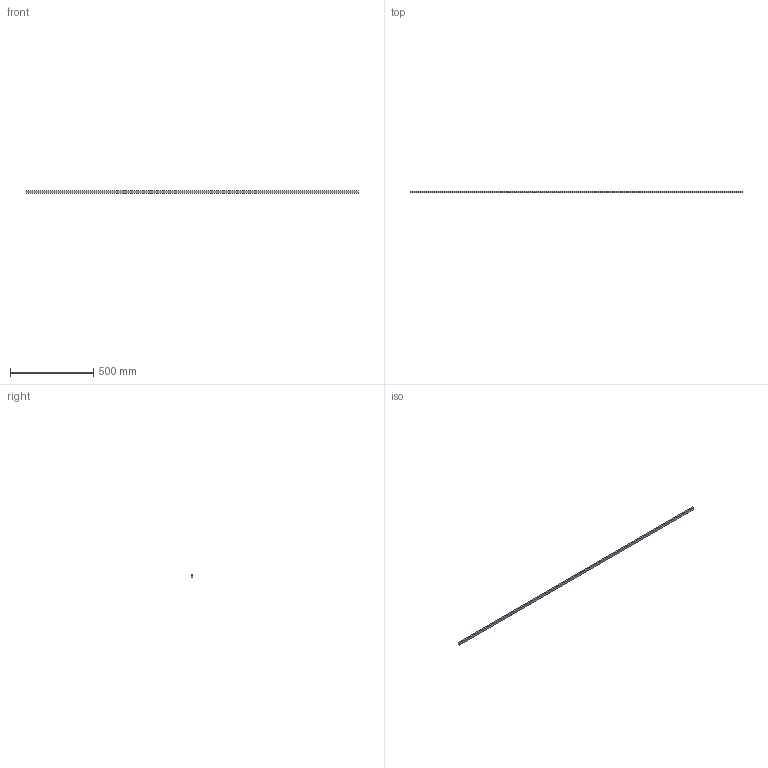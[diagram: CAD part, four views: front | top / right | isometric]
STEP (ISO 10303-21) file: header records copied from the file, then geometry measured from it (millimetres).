
FILE_DESCRIPTION (( 'STEP AP214' ), '1' );
FILE_NAME ('EBP-A10-15.STEP', '2016-01-28T06:54:35', ( '' ), ( '' ), 'SwSTEP 2.0', 'SolidWorks 2012', '' );
FILE_SCHEMA (( 'AUTOMOTIVE_DESIGN' ));
Length unit declared in the file: millimetre
Products named in the file (1): EBP-A10-15
Bounding box: 2000 x 10.2 x 15 mm (x, y, z)
Volume: 306000 mm3; surface area: 161106 mm2
Topology: 2 solids, 2 shells, 12 faces, 24 edges, 16 vertices
Faces by surface type: plane 12
Entity records: 351 total; most frequent: CARTESIAN_POINT 53, DIRECTION 50, ORIENTED_EDGE 48, LINE 24, VECTOR 24, EDGE_CURVE 24, VERTEX_POINT 16, AXIS2_PLACEMENT_3D 13
